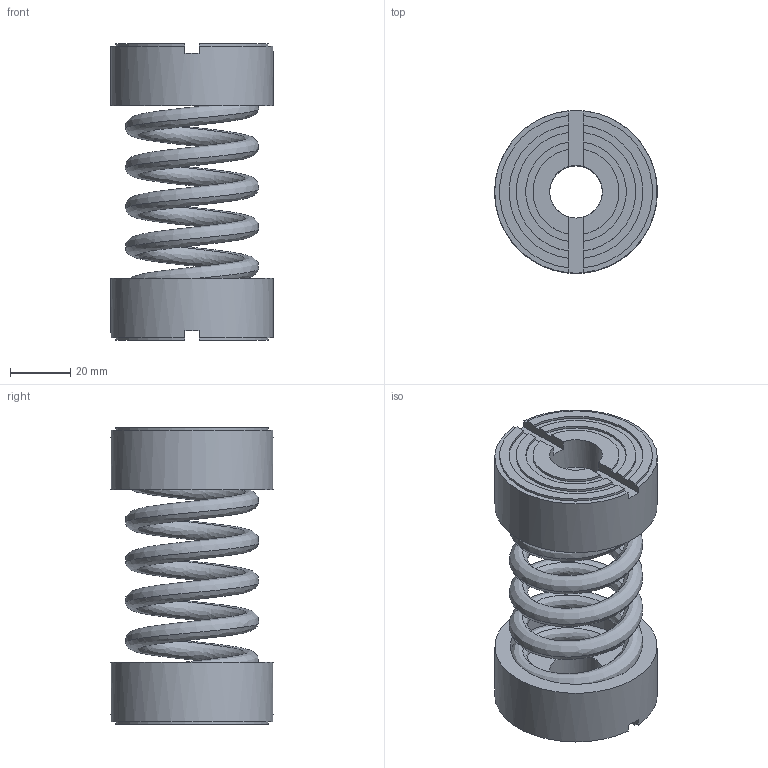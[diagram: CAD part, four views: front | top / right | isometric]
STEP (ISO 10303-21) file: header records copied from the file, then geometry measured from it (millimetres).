
FILE_DESCRIPTION(/* description */ (''),/* implementation_level */ '2;1');
FILE_NAME(/* name */ '\\Mleuckthor2\cad-proe_solids\WEBSITE FILES 05.22.13\STEP\IMF\IMF-A-400.stp',/* time_stamp */ '2016-03-07T09:40:14-05:00',/* author */ ('rramoutar'),/* organization */ ('Mason Industries Inc.'),/* preprocessor_version */ 'ST-DEVELOPER v15.6',/* originating_system */ 'Autodesk Inventor 2015',/* authorisation */ '');
FILE_SCHEMA (('CONFIG_CONTROL_DESIGN'));
Length unit declared in the file: inch
Products named in the file (1): IMF-A-400
Bounding box: 53.98 x 53.98 x 98.42 mm (x, y, z)
Volume: 67611.8 mm3; surface area: 53038.1 mm2
Topology: 5 solids, 7 shells, 112 faces, 294 edges, 196 vertices
Faces by surface type: plane 54, cylinder 36, bspline 22
Full cylindrical faces by diameter (mm): 17.462 x2, 24.606 x4, 43.656 x2, 44.45 x4, 53.975 x2
Entity records: 12422 total; most frequent: CARTESIAN_POINT 9628, ORIENTED_EDGE 552, DIRECTION 496, EDGE_CURVE 276, VERTEX_POINT 192, AXIS2_PLACEMENT_3D 177, LINE 142, VECTOR 142
